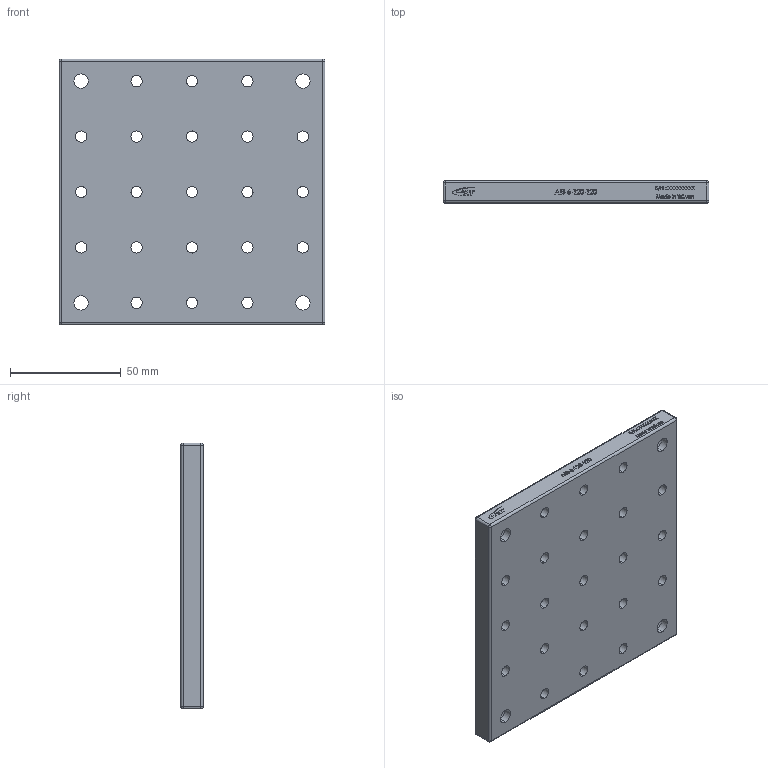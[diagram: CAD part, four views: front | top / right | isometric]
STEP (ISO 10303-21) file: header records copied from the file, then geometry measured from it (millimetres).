
FILE_DESCRIPTION (( 'STEP AP203' ), '1' );
FILE_NAME ('AIB-6-120-120.STEP', '2017-11-24T02:15:16', ( '' ), ( '' ), 'SwSTEP 2.0', 'SolidWorks 2017', '' );
FILE_SCHEMA (( 'CONFIG_CONTROL_DESIGN' ));
Length unit declared in the file: millimetre
Products named in the file (1): AIB-6-120-120
Bounding box: 120 x 10 x 120 mm (x, y, z)
Volume: 136560.8 mm3; surface area: 36600 mm2
Topology: 1 solids, 1 shells, 587 faces, 1556 edges, 1024 vertices
Faces by surface type: plane 362, bspline 147, cylinder 70, sphere 8
Entity records: 25121 total; most frequent: CARTESIAN_POINT 11299, ORIENTED_EDGE 3096, DIRECTION 2268, EDGE_CURVE 1548, LINE 1106, VECTOR 1106, VERTEX_POINT 1024, EDGE_LOOP 698
